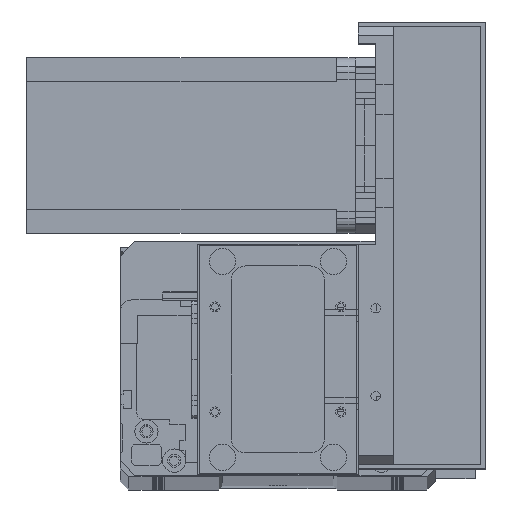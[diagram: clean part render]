
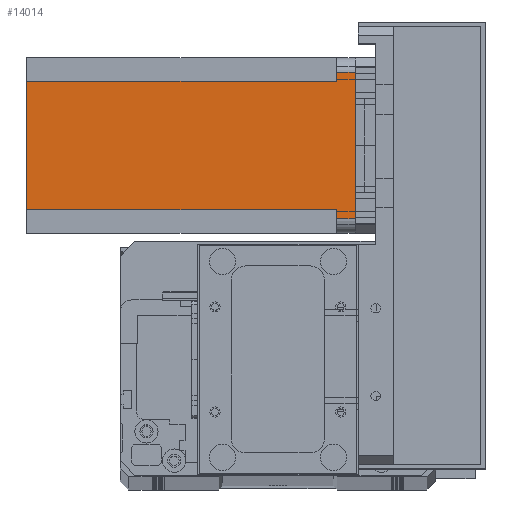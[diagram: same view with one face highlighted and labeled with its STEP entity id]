
A CAD part, top view. The second image highlights one B-rep face of the part: STEP entity #14014.
In plain terms, the highlighted planar face has unit normal (0, 0, 1) as drawn and (0, 1, 0) by its records, which use the part's own axes.
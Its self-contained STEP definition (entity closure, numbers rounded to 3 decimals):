
#143 = VERTEX_POINT ( 'NONE', #21242 ) ;
#225 = VECTOR ( 'NONE', #19420, 1000. ) ;
#714 = CARTESIAN_POINT ( 'NONE',  ( 52., 60., -112.5 ) ) ;
#811 = CARTESIAN_POINT ( 'NONE',  ( 5., 60., -112.5 ) ) ;
#2057 = CARTESIAN_POINT ( 'NONE',  ( 0., 60., -112.5 ) ) ;
#2162 = VERTEX_POINT ( 'NONE', #16210 ) ;
#2991 = CARTESIAN_POINT ( 'NONE',  ( 52., 60., -6.5 ) ) ;
#3241 = CARTESIAN_POINT ( 'NONE',  ( 52., 60., -6.5 ) ) ;
#3264 = CARTESIAN_POINT ( 'NONE',  ( 8., 60., -6.5 ) ) ;
#3341 = DIRECTION ( 'NONE',  ( 0., 0., 1. ) ) ;
#4708 = ORIENTED_EDGE ( 'NONE', *, *, #27935, .T. ) ;
#4828 = LINE ( 'NONE', #2991, #17331 ) ;
#5393 = LINE ( 'NONE', #14912, #18709 ) ;
#5501 = ORIENTED_EDGE ( 'NONE', *, *, #23291, .F. ) ;
#5707 = DIRECTION ( 'NONE',  ( 1., 0., 0. ) ) ;
#5710 = VECTOR ( 'NONE', #13762, 1000. ) ;
#6198 = CARTESIAN_POINT ( 'NONE',  ( 55., 60., 0. ) ) ;
#7363 = FACE_OUTER_BOUND ( 'NONE', #13554, .T. ) ;
#7446 = DIRECTION ( 'NONE',  ( -1., 0., 0. ) ) ;
#8543 = ORIENTED_EDGE ( 'NONE', *, *, #31555, .F. ) ;
#11579 = DIRECTION ( 'NONE',  ( -1., 0., 0. ) ) ;
#11701 = ORIENTED_EDGE ( 'NONE', *, *, #29032, .T. ) ;
#12259 = LINE ( 'NONE', #27544, #19359 ) ;
#12580 = VERTEX_POINT ( 'NONE', #17757 ) ;
#12870 = PLANE ( 'NONE',  #28729 ) ;
#12971 = VERTEX_POINT ( 'NONE', #6198 ) ;
#13554 = EDGE_LOOP ( 'NONE', ( #18712, #11701, #8543, #5501, #4708, #28184, #16896, #32575 ) ) ;
#13762 = DIRECTION ( 'NONE',  ( 0., 0., -1. ) ) ;
#14014 = ADVANCED_FACE ( 'NONE', ( #7363 ), #12870, .T. ) ;
#14396 = LINE ( 'NONE', #811, #225 ) ;
#14488 = EDGE_CURVE ( 'NONE', #2162, #143, #14396, .T. ) ;
#14912 = CARTESIAN_POINT ( 'NONE',  ( 8., 60., -112.5 ) ) ;
#15554 = EDGE_CURVE ( 'NONE', #26683, #2162, #18884, .T. ) ;
#16210 = CARTESIAN_POINT ( 'NONE',  ( 5., 60., -6.5 ) ) ;
#16896 = ORIENTED_EDGE ( 'NONE', *, *, #15554, .T. ) ;
#17283 = VECTOR ( 'NONE', #3341, 1000. ) ;
#17331 = VECTOR ( 'NONE', #5707, 1000. ) ;
#17757 = CARTESIAN_POINT ( 'NONE',  ( 52., 60., -112.5 ) ) ;
#18347 = DIRECTION ( 'NONE',  ( 0., 0., 1. ) ) ;
#18635 = CARTESIAN_POINT ( 'NONE',  ( 55., 60., -6.5 ) ) ;
#18709 = VECTOR ( 'NONE', #28198, 1000. ) ;
#18712 = ORIENTED_EDGE ( 'NONE', *, *, #30289, .F. ) ;
#18884 = LINE ( 'NONE', #3264, #33060 ) ;
#19223 = DIRECTION ( 'NONE',  ( -1., 0., 0. ) ) ;
#19230 = VERTEX_POINT ( 'NONE', #23628 ) ;
#19359 = VECTOR ( 'NONE', #11579, 1000. ) ;
#19420 = DIRECTION ( 'NONE',  ( 0., 0., 1. ) ) ;
#20744 = VECTOR ( 'NONE', #7446, 1000. ) ;
#21242 = CARTESIAN_POINT ( 'NONE',  ( 5., 60., 0. ) ) ;
#23132 = VERTEX_POINT ( 'NONE', #18635 ) ;
#23291 = EDGE_CURVE ( 'NONE', #12580, #27591, #25157, .T. ) ;
#23628 = CARTESIAN_POINT ( 'NONE',  ( 8., 60., -112.5 ) ) ;
#25157 = LINE ( 'NONE', #714, #17283 ) ;
#25297 = CARTESIAN_POINT ( 'NONE',  ( 8., 60., -6.5 ) ) ;
#26104 = LINE ( 'NONE', #29712, #5710 ) ;
#26683 = VERTEX_POINT ( 'NONE', #25297 ) ;
#27342 = EDGE_CURVE ( 'NONE', #26683, #19230, #5393, .T. ) ;
#27544 = CARTESIAN_POINT ( 'NONE',  ( 0., 60., 0. ) ) ;
#27591 = VERTEX_POINT ( 'NONE', #3241 ) ;
#27847 = LINE ( 'NONE', #2057, #20744 ) ;
#27935 = EDGE_CURVE ( 'NONE', #12580, #19230, #27847, .T. ) ;
#28184 = ORIENTED_EDGE ( 'NONE', *, *, #27342, .F. ) ;
#28198 = DIRECTION ( 'NONE',  ( 0., 0., -1. ) ) ;
#28729 = AXIS2_PLACEMENT_3D ( 'NONE', #28950, #34286, #18347 ) ;
#28950 = CARTESIAN_POINT ( 'NONE',  ( 0., 60., -112.5 ) ) ;
#29032 = EDGE_CURVE ( 'NONE', #12971, #23132, #26104, .T. ) ;
#29712 = CARTESIAN_POINT ( 'NONE',  ( 55., 60., -112.5 ) ) ;
#30289 = EDGE_CURVE ( 'NONE', #12971, #143, #12259, .T. ) ;
#31555 = EDGE_CURVE ( 'NONE', #27591, #23132, #4828, .T. ) ;
#32575 = ORIENTED_EDGE ( 'NONE', *, *, #14488, .T. ) ;
#33060 = VECTOR ( 'NONE', #19223, 1000. ) ;
#34286 = DIRECTION ( 'NONE',  ( 0., 1., 0. ) ) ;
